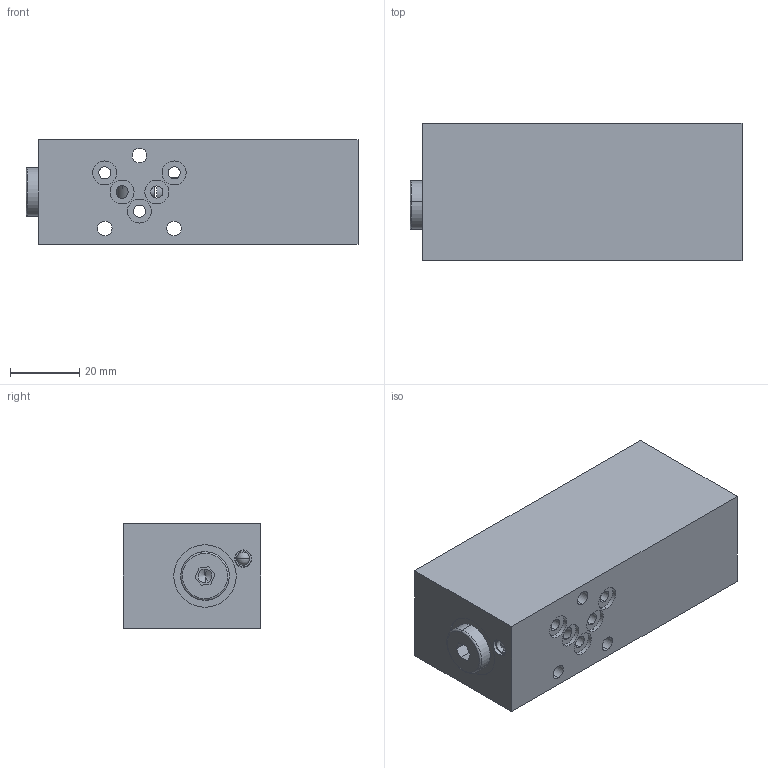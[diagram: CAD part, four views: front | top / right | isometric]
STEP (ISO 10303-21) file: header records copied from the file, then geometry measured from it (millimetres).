
FILE_DESCRIPTION (( 'STEP AP214' ), '1' );
FILE_NAME ('MVPSA03-B.STEP', '2017-04-13T12:34:56', ( '' ), ( '' ), 'SwSTEP 2.0', 'SolidWorks 2016', '' );
FILE_SCHEMA (( 'AUTOMOTIVE_DESIGN' ));
Length unit declared in the file: millimetre
Products named in the file (1): MVPSA03-B
Bounding box: 95.7 x 39.5 x 30 mm (x, y, z)
Volume: 104719.9 mm3; surface area: 20314.7 mm2
Topology: 3 solids, 5 shells, 148 faces, 344 edges, 219 vertices
Faces by surface type: cylinder 76, plane 39, cone 21, sphere 8, torus 4
Entity records: 6061 total; most frequent: CARTESIAN_POINT 906, DIRECTION 798, ORIENTED_EDGE 680, EDGE_CURVE 340, AXIS2_PLACEMENT_3D 333, VERTEX_POINT 219, EDGE_LOOP 185, CIRCLE 184
